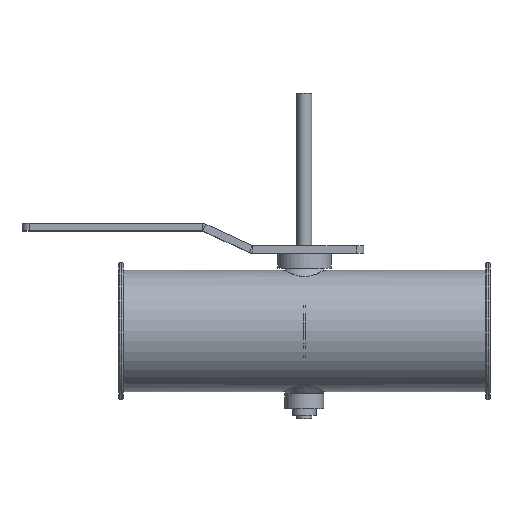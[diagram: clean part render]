
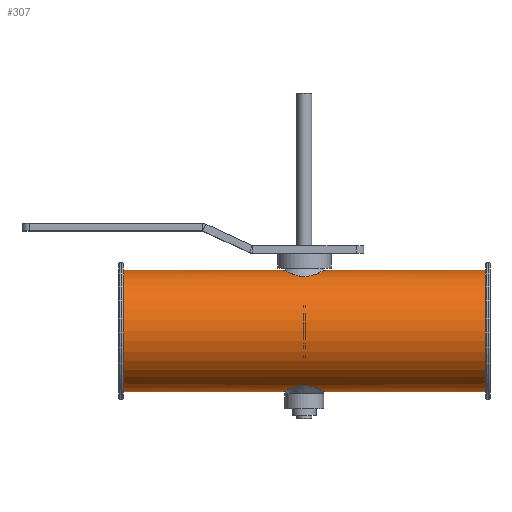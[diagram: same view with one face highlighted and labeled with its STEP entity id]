
A CAD part, top view. The second image highlights one B-rep face of the part: STEP entity #307.
In plain terms, the highlighted cylindrical face has radius 40.8 mm (diameter 81.6 mm), a full revolution.
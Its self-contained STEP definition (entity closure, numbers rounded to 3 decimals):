
#239=B_SPLINE_CURVE_WITH_KNOTS('',3,(#1849,#1850,#1851,#1852,#1853,#1854,
#1855,#1856,#1857,#1858,#1859,#1860,#1861,#1862,#1863,#1864,#1865,#1866,
#1867,#1868,#1869,#1870,#1871,#1872,#1873,#1874,#1875,#1876),.UNSPECIFIED.,
 .T.,.F.,(2,2,2,2,2,2,2,2,2,2,2,2,2,2,2,2),(-0.063,0.,0.125,
0.25,0.313,0.375,0.438,
0.5,0.563,0.625,0.75,0.813,0.875,
0.938,1.,1.125),.UNSPECIFIED.);
#240=B_SPLINE_CURVE_WITH_KNOTS('',3,(#1878,#1879,#1880,#1881,#1882,#1883,
#1884,#1885,#1886,#1887,#1888,#1889,#1890,#1891,#1892,#1893,#1894,#1895,
#1896,#1897,#1898,#1899,#1900,#1901,#1902,#1903,#1904,#1905,#1906,#1907),
 .UNSPECIFIED.,.T.,.F.,(2,2,2,2,2,2,2,2,2,2,2,2,2,2,2,2,2),(-0.063,
0.,0.062,0.125,0.188,0.25,0.375,0.438,0.5,0.563,
0.625,0.688,0.75,0.875,0.938,1.,1.063),.UNSPECIFIED.);
#270=CYLINDRICAL_SURFACE('',#1304,40.8);
#307=ADVANCED_FACE('',(#453,#454,#455,#456),#270,.T.);
#453=FACE_BOUND('',#579,.T.);
#454=FACE_BOUND('',#580,.T.);
#455=FACE_BOUND('',#581,.T.);
#456=FACE_BOUND('',#582,.T.);
#579=EDGE_LOOP('',(#735));
#580=EDGE_LOOP('',(#736));
#581=EDGE_LOOP('',(#737));
#582=EDGE_LOOP('',(#738));
#735=ORIENTED_EDGE('',*,*,#1083,.T.);
#736=ORIENTED_EDGE('',*,*,#1084,.T.);
#737=ORIENTED_EDGE('',*,*,#1085,.T.);
#738=ORIENTED_EDGE('',*,*,#1086,.F.);
#981=VERTEX_POINT('',#1848);
#982=VERTEX_POINT('',#1877);
#983=VERTEX_POINT('',#1908);
#984=VERTEX_POINT('',#1910);
#1083=EDGE_CURVE('',#981,#981,#1213,.T.);
#1084=EDGE_CURVE('',#982,#982,#239,.T.);
#1085=EDGE_CURVE('',#983,#983,#240,.T.);
#1086=EDGE_CURVE('',#984,#984,#1214,.T.);
#1213=CIRCLE('',#1302,40.8);
#1214=CIRCLE('',#1303,40.8);
#1302=AXIS2_PLACEMENT_3D('',#1847,#1492,#1493);
#1303=AXIS2_PLACEMENT_3D('',#1909,#1494,#1495);
#1304=AXIS2_PLACEMENT_3D('',#1911,#1496,#1497);
#1492=DIRECTION('',(1.,0.,0.));
#1493=DIRECTION('',(0.,0.,1.));
#1494=DIRECTION('',(1.,0.,0.));
#1495=DIRECTION('',(0.,0.,1.));
#1496=DIRECTION('',(1.,0.,0.));
#1497=DIRECTION('',(0.,0.,-1.));
#1847=CARTESIAN_POINT('',(-122.,1.7,125.));
#1848=CARTESIAN_POINT('',(-122.,1.7,165.8));
#1849=CARTESIAN_POINT('',(-5.395,-35.522,108.233));
#1850=CARTESIAN_POINT('',(-10.314,-37.121,112.136));
#1851=CARTESIAN_POINT('',(-12.526,-38.286,115.893));
#1852=CARTESIAN_POINT('',(-14.573,-39.3,124.113));
#1853=CARTESIAN_POINT('',(-14.278,-39.137,128.606));
#1854=CARTESIAN_POINT('',(-11.972,-38.029,134.501));
#1855=CARTESIAN_POINT('',(-10.92,-37.535,136.319));
#1856=CARTESIAN_POINT('',(-8.287,-36.464,139.527));
#1857=CARTESIAN_POINT('',(-6.711,-35.88,140.922));
#1858=CARTESIAN_POINT('',(-2.997,-34.995,142.868));
#1859=CARTESIAN_POINT('',(-0.776,-34.74,143.354));
#1860=CARTESIAN_POINT('',(3.453,-35.035,142.757));
#1861=CARTESIAN_POINT('',(5.401,-35.524,141.764));
#1862=CARTESIAN_POINT('',(8.676,-36.588,139.164));
#1863=CARTESIAN_POINT('',(10.013,-37.153,137.588));
#1864=CARTESIAN_POINT('',(12.212,-38.133,134.022));
#1865=CARTESIAN_POINT('',(13.03,-38.535,132.078));
#1866=CARTESIAN_POINT('',(14.58,-39.303,125.868));
#1867=CARTESIAN_POINT('',(14.29,-39.142,121.43));
#1868=CARTESIAN_POINT('',(11.972,-38.029,115.496));
#1869=CARTESIAN_POINT('',(10.935,-37.541,113.701));
#1870=CARTESIAN_POINT('',(8.286,-36.463,110.47));
#1871=CARTESIAN_POINT('',(6.716,-35.882,109.082));
#1872=CARTESIAN_POINT('',(2.997,-34.995,107.132));
#1873=CARTESIAN_POINT('',(0.781,-34.74,106.646));
#1874=CARTESIAN_POINT('',(-3.455,-35.035,107.243));
#1875=CARTESIAN_POINT('',(-5.395,-35.522,108.233));
#1876=CARTESIAN_POINT('',(-10.314,-37.121,112.136));
#1877=CARTESIAN_POINT('',(-7.035,-36.055,109.534));
#1878=CARTESIAN_POINT('',(-8.677,39.989,110.837));
#1879=CARTESIAN_POINT('',(-5.393,38.921,108.231));
#1880=CARTESIAN_POINT('',(-3.45,38.434,107.241));
#1881=CARTESIAN_POINT('',(0.792,38.14,106.646));
#1882=CARTESIAN_POINT('',(3.004,38.396,107.134));
#1883=CARTESIAN_POINT('',(6.717,39.282,109.083));
#1884=CARTESIAN_POINT('',(8.288,39.864,110.473));
#1885=CARTESIAN_POINT('',(10.931,40.94,113.696));
#1886=CARTESIAN_POINT('',(11.98,41.432,115.513));
#1887=CARTESIAN_POINT('',(14.288,42.542,121.434));
#1888=CARTESIAN_POINT('',(14.582,42.704,125.865));
#1889=CARTESIAN_POINT('',(13.027,41.934,132.088));
#1890=CARTESIAN_POINT('',(12.211,41.533,134.023));
#1891=CARTESIAN_POINT('',(10.01,40.552,137.592));
#1892=CARTESIAN_POINT('',(8.677,39.989,139.161));
#1893=CARTESIAN_POINT('',(5.414,38.928,141.755));
#1894=CARTESIAN_POINT('',(3.469,38.437,142.752));
#1895=CARTESIAN_POINT('',(-0.771,38.14,143.355));
#1896=CARTESIAN_POINT('',(-2.988,38.393,142.871));
#1897=CARTESIAN_POINT('',(-6.705,39.278,140.927));
#1898=CARTESIAN_POINT('',(-8.278,39.86,139.536));
#1899=CARTESIAN_POINT('',(-10.923,40.936,136.316));
#1900=CARTESIAN_POINT('',(-11.974,41.429,134.5));
#1901=CARTESIAN_POINT('',(-14.288,42.542,128.573));
#1902=CARTESIAN_POINT('',(-14.582,42.704,124.14));
#1903=CARTESIAN_POINT('',(-13.03,41.935,117.919));
#1904=CARTESIAN_POINT('',(-12.213,41.533,115.98));
#1905=CARTESIAN_POINT('',(-10.013,40.553,112.411));
#1906=CARTESIAN_POINT('',(-8.677,39.989,110.837));
#1907=CARTESIAN_POINT('',(-5.393,38.921,108.231));
#1908=CARTESIAN_POINT('',(-7.035,39.455,109.534));
#1909=CARTESIAN_POINT('',(122.,1.7,125.));
#1910=CARTESIAN_POINT('',(122.,1.7,165.8));
#1911=CARTESIAN_POINT('',(-125.,1.7,125.));
